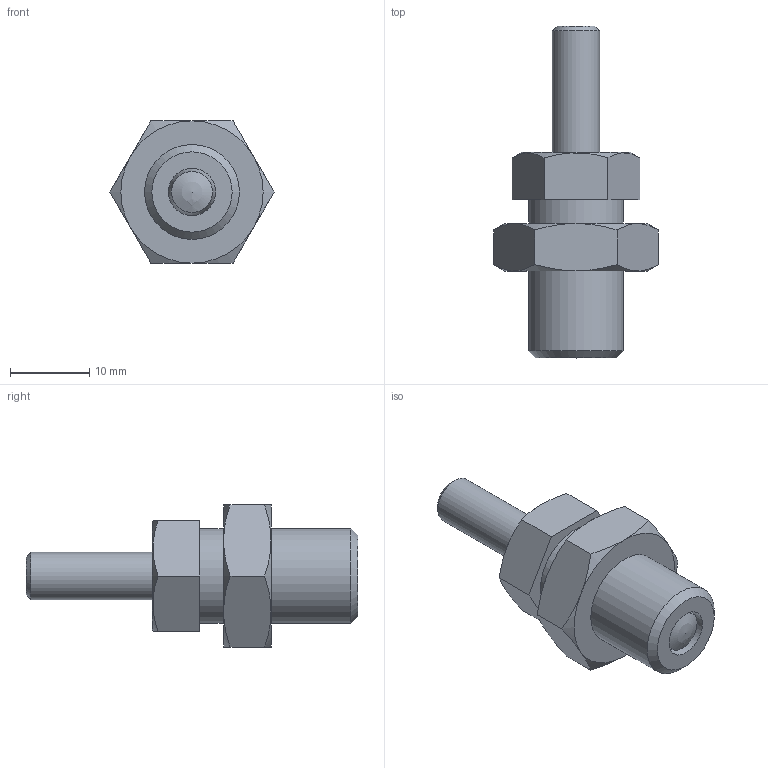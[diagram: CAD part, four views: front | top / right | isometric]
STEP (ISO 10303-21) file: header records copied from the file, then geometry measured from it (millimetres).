
FILE_DESCRIPTION( ( 'STEP AP203' ), '1' );
FILE_NAME( 'C:/Temp/Ganter_Step_05_03_2020/data/3_1/gn617_n/gn617n_gk/Stainless Steel Indexing plunger GN 617-6-GK-NI (activated-3).stp', '2020-03-12T08:43:15', ( 'License CC BY-ND 4.0' ), ( 'CADENAS' ), ' ', 'PARTsolutions', ' ' );
FILE_SCHEMA( ( 'CONFIG_CONTROL_DESIGN' ) );
Length unit declared in the file: millimetre
Products named in the file (4): Stainless Steel Indexing plunger GN 617-6-GK-NI (activated-3); _STAINLESS STEEL - Indexing plunger GN 617-6-GK-NI (3)-2; _STAINLESS STEEL - Indexing plunger GN 617-6-GK-NI (1)-1; _STAINLESS STEEL - Indexing plunger GN 617-6-GK-NI-3
Assembly tree (3 placements, depth 2):
  Stainless Steel Indexing plunger GN 617-6-GK-NI (activated-3)
    _STAINLESS STEEL - Indexing plunger GN 617-6-GK-NI (3)-2
    _STAINLESS STEEL - Indexing plunger GN 617-6-GK-NI (1)-1
    _STAINLESS STEEL - Indexing plunger GN 617-6-GK-NI-3
Bounding box: 20.78 x 42 x 18 mm (x, y, z)
Volume: 4533.9 mm3; surface area: 3842.3 mm2
Topology: 3 solids, 3 shells, 49 faces, 99 edges, 60 vertices
Faces by surface type: plane 22, cone 18, cylinder 8, sphere 1
Full cylindrical faces by diameter (mm): 6 x4, 10 x2, 10.376 x1, 12 x1
Entity records: 1457 total; most frequent: CARTESIAN_POINT 392, DIRECTION 192, ORIENTED_EDGE 164, AXIS2_PLACEMENT_3D 87, EDGE_CURVE 82, EDGE_LOOP 72, VERTEX_POINT 59, FACE_OUTER_BOUND 57
